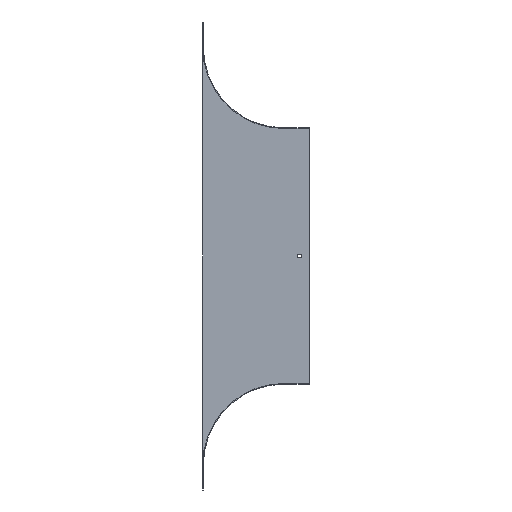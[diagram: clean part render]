
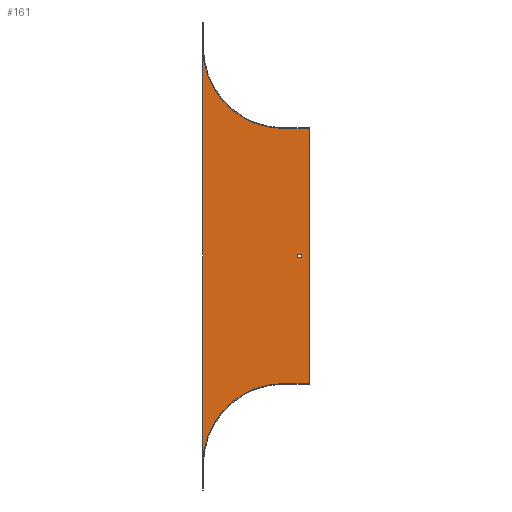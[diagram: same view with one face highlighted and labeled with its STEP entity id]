
A CAD part, front view. The second image highlights one B-rep face of the part: STEP entity #161.
In plain terms, the highlighted planar face has unit normal (0, -1, 0).
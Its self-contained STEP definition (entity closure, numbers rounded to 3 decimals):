
#3 = CARTESIAN_POINT ( 'NONE',  ( -127., -1., 0. ) ) ;
#20 = VERTEX_POINT ( 'NONE', #81 ) ;
#25 = CARTESIAN_POINT ( 'NONE',  ( 0., -1., -127. ) ) ;
#41 = DIRECTION ( 'NONE',  ( 0., 0., 1. ) ) ;
#42 = ORIENTED_EDGE ( 'NONE', *, *, #203, .F. ) ;
#47 = VECTOR ( 'NONE', #193, 1000. ) ;
#50 = ORIENTED_EDGE ( 'NONE', *, *, #228, .F. ) ;
#51 = DIRECTION ( 'NONE',  ( -1., 0., 0. ) ) ;
#55 = CARTESIAN_POINT ( 'NONE',  ( 0., -1., -527. ) ) ;
#74 = CARTESIAN_POINT ( 'NONE',  ( 40., -1., -126. ) ) ;
#81 = CARTESIAN_POINT ( 'NONE',  ( 28.5, -1., -324. ) ) ;
#85 = FACE_OUTER_BOUND ( 'NONE', #277, .T. ) ;
#94 = VERTEX_POINT ( 'NONE', #354 ) ;
#106 = LINE ( 'NONE', #599, #490 ) ;
#108 = VERTEX_POINT ( 'NONE', #460 ) ;
#117 = VERTEX_POINT ( 'NONE', #558 ) ;
#120 = LINE ( 'NONE', #602, #185 ) ;
#125 = CIRCLE ( 'NONE', #356, 127. ) ;
#146 = CARTESIAN_POINT ( 'NONE',  ( -127., -1., -654. ) ) ;
#149 = VECTOR ( 'NONE', #41, 1000. ) ;
#150 = VERTEX_POINT ( 'NONE', #320 ) ;
#153 = CARTESIAN_POINT ( 'NONE',  ( 21.5, -1., -324. ) ) ;
#156 = VERTEX_POINT ( 'NONE', #25 ) ;
#161 = ADVANCED_FACE ( 'NONE', ( #527, #85 ), #261, .T. ) ;
#185 = VECTOR ( 'NONE', #351, 1000. ) ;
#193 = DIRECTION ( 'NONE',  ( 1., 0., 0. ) ) ;
#201 = VECTOR ( 'NONE', #632, 1000. ) ;
#203 = EDGE_CURVE ( 'NONE', #445, #428, #125, .T. ) ;
#213 = ORIENTED_EDGE ( 'NONE', *, *, #645, .F. ) ;
#216 = ORIENTED_EDGE ( 'NONE', *, *, #592, .F. ) ;
#217 = DIRECTION ( 'NONE',  ( 0., 0., -1. ) ) ;
#224 = ORIENTED_EDGE ( 'NONE', *, *, #439, .F. ) ;
#228 = EDGE_CURVE ( 'NONE', #20, #674, #106, .T. ) ;
#249 = LINE ( 'NONE', #74, #538 ) ;
#252 = CARTESIAN_POINT ( 'NONE',  ( 0., -1., -127. ) ) ;
#261 = PLANE ( 'NONE',  #436 ) ;
#269 = VECTOR ( 'NONE', #596, 1000. ) ;
#277 = EDGE_LOOP ( 'NONE', ( #42, #598, #213, #564, #360, #216 ) ) ;
#284 = DIRECTION ( 'NONE',  ( 0., -1., 0. ) ) ;
#300 = LINE ( 'NONE', #618, #47 ) ;
#306 = DIRECTION ( 'NONE',  ( -1., 0., 0. ) ) ;
#320 = CARTESIAN_POINT ( 'NONE',  ( 40., -1., -527. ) ) ;
#343 = AXIS2_PLACEMENT_3D ( 'NONE', #438, #284, #595 ) ;
#351 = DIRECTION ( 'NONE',  ( 0., 0., -1. ) ) ;
#354 = CARTESIAN_POINT ( 'NONE',  ( 28.5, -1., -330. ) ) ;
#356 = AXIS2_PLACEMENT_3D ( 'NONE', #612, #661, #496 ) ;
#360 = ORIENTED_EDGE ( 'NONE', *, *, #562, .F. ) ;
#368 = CARTESIAN_POINT ( 'NONE',  ( 0., -1., -527. ) ) ;
#384 = EDGE_CURVE ( 'NONE', #150, #445, #622, .T. ) ;
#391 = DIRECTION ( 'NONE',  ( 0., -1., 0. ) ) ;
#406 = EDGE_CURVE ( 'NONE', #156, #117, #571, .T. ) ;
#428 = VERTEX_POINT ( 'NONE', #146 ) ;
#436 = AXIS2_PLACEMENT_3D ( 'NONE', #656, #391, #217 ) ;
#438 = CARTESIAN_POINT ( 'NONE',  ( 0., -1., 0. ) ) ;
#439 = EDGE_CURVE ( 'NONE', #674, #108, #120, .T. ) ;
#445 = VERTEX_POINT ( 'NONE', #55 ) ;
#460 = CARTESIAN_POINT ( 'NONE',  ( 21.5, -1., -330. ) ) ;
#490 = VECTOR ( 'NONE', #51, 1000. ) ;
#496 = DIRECTION ( 'NONE',  ( 0., 0., -1. ) ) ;
#527 = FACE_BOUND ( 'NONE', #643, .T. ) ;
#531 = VECTOR ( 'NONE', #306, 1000. ) ;
#538 = VECTOR ( 'NONE', #682, 1000. ) ;
#543 = CARTESIAN_POINT ( 'NONE',  ( 28.5, -1., 0. ) ) ;
#558 = CARTESIAN_POINT ( 'NONE',  ( 40., -1., -127. ) ) ;
#562 = EDGE_CURVE ( 'NONE', #617, #156, #685, .T. ) ;
#564 = ORIENTED_EDGE ( 'NONE', *, *, #406, .F. ) ;
#569 = CARTESIAN_POINT ( 'NONE',  ( -127., -1., -694. ) ) ;
#571 = LINE ( 'NONE', #252, #269 ) ;
#576 = EDGE_CURVE ( 'NONE', #94, #20, #666, .T. ) ;
#592 = EDGE_CURVE ( 'NONE', #428, #617, #723, .T. ) ;
#595 = DIRECTION ( 'NONE',  ( 0., 0., -1. ) ) ;
#596 = DIRECTION ( 'NONE',  ( 1., 0., 0. ) ) ;
#597 = EDGE_CURVE ( 'NONE', #108, #94, #300, .T. ) ;
#598 = ORIENTED_EDGE ( 'NONE', *, *, #384, .F. ) ;
#599 = CARTESIAN_POINT ( 'NONE',  ( 0., -1., -324. ) ) ;
#602 = CARTESIAN_POINT ( 'NONE',  ( 21.5, -1., 0. ) ) ;
#612 = CARTESIAN_POINT ( 'NONE',  ( 0., -1., -654. ) ) ;
#617 = VERTEX_POINT ( 'NONE', #3 ) ;
#618 = CARTESIAN_POINT ( 'NONE',  ( 0., -1., -330. ) ) ;
#622 = LINE ( 'NONE', #368, #531 ) ;
#632 = DIRECTION ( 'NONE',  ( 0., 0., 1. ) ) ;
#643 = EDGE_LOOP ( 'NONE', ( #224, #50, #713, #711 ) ) ;
#645 = EDGE_CURVE ( 'NONE', #117, #150, #249, .T. ) ;
#656 = CARTESIAN_POINT ( 'NONE',  ( 0., -1., 0. ) ) ;
#661 = DIRECTION ( 'NONE',  ( 0., -1., 0. ) ) ;
#666 = LINE ( 'NONE', #543, #149 ) ;
#674 = VERTEX_POINT ( 'NONE', #153 ) ;
#682 = DIRECTION ( 'NONE',  ( 0., 0., -1. ) ) ;
#685 = CIRCLE ( 'NONE', #343, 127. ) ;
#711 = ORIENTED_EDGE ( 'NONE', *, *, #597, .F. ) ;
#713 = ORIENTED_EDGE ( 'NONE', *, *, #576, .F. ) ;
#723 = LINE ( 'NONE', #569, #201 ) ;
